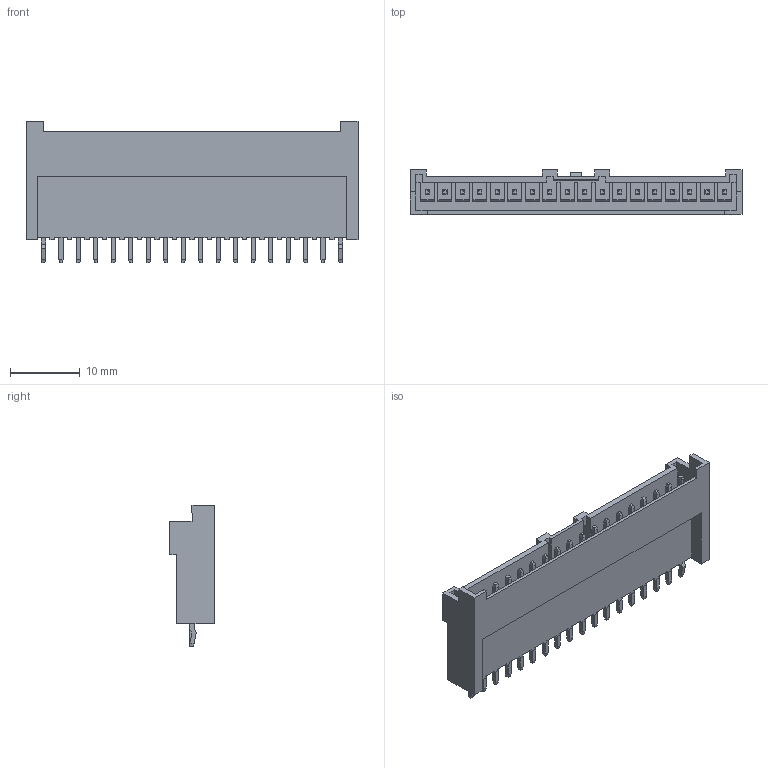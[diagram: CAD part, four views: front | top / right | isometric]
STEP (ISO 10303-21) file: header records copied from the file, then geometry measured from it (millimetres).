
FILE_DESCRIPTION (( 'STEP AP214' ), '1' );
FILE_NAME ('HC-XAH-18A-K-05 (2.50 等齬 眻渀 湖K褐-HCTL).STEP', '2025-01-07T09:40:16', ( '' ), ( '' ), 'SwSTEP 2.0', 'SolidWorks 2022', '' );
FILE_SCHEMA (( 'AUTOMOTIVE_DESIGN' ));
Length unit declared in the file: millimetre
Products named in the file (1): HC-XAH-18A-K-05 (2.50 等齬 眻渀 湖K褐-HCTL)
Bounding box: 47.5 x 6.4 x 20.3 mm (x, y, z)
Volume: 1918.8 mm3; surface area: 3115.8 mm2
Topology: 1 solids, 1 shells, 547 faces, 1388 edges, 876 vertices
Faces by surface type: plane 547
Entity records: 19612 total; most frequent: CARTESIAN_POINT 2812, ORIENTED_EDGE 2776, DIRECTION 2484, VECTOR 1388, EDGE_CURVE 1388, LINE 1388, VERTEX_POINT 876, EDGE_LOOP 584
